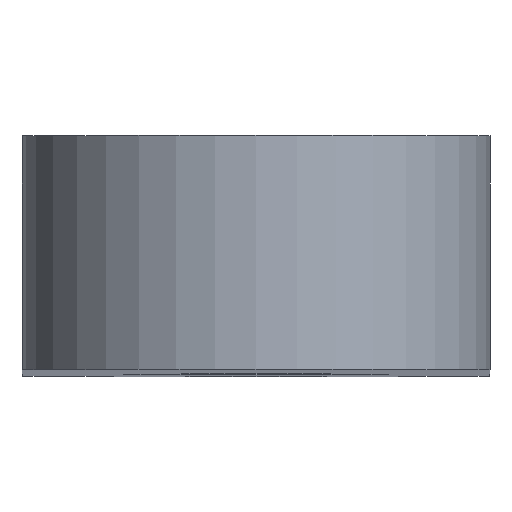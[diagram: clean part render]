
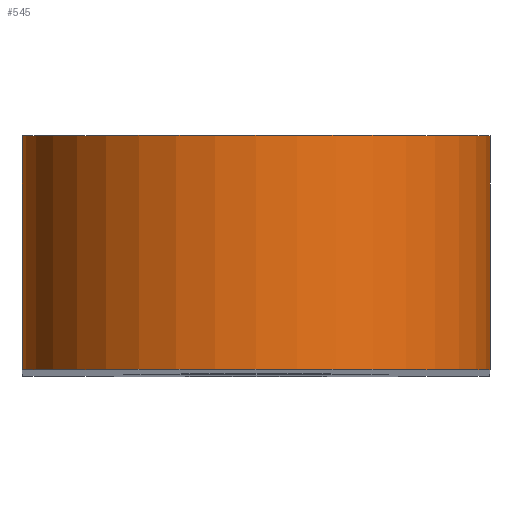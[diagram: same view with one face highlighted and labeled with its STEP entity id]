
A CAD part, top view. The second image highlights one B-rep face of the part: STEP entity #545.
In plain terms, the highlighted cylindrical face has radius 5 mm (diameter 10 mm), a partial arc.
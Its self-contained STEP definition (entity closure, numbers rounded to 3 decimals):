
#19=CYLINDRICAL_SURFACE('',#599,5.);
#66=LINE('',#888,#118);
#67=LINE('',#891,#119);
#118=VECTOR('',#725,10.);
#119=VECTOR('',#728,10.);
#163=FACE_OUTER_BOUND('',#197,.T.);
#197=EDGE_LOOP('',(#441,#442,#443,#444));
#230=CIRCLE('',#600,5.);
#231=CIRCLE('',#601,5.);
#276=VERTEX_POINT('',#884);
#277=VERTEX_POINT('',#885);
#278=VERTEX_POINT('',#887);
#279=VERTEX_POINT('',#889);
#339=EDGE_CURVE('',#276,#277,#230,.T.);
#340=EDGE_CURVE('',#278,#276,#66,.T.);
#341=EDGE_CURVE('',#279,#278,#231,.T.);
#342=EDGE_CURVE('',#279,#277,#67,.T.);
#441=ORIENTED_EDGE('',*,*,#339,.F.);
#442=ORIENTED_EDGE('',*,*,#340,.F.);
#443=ORIENTED_EDGE('',*,*,#341,.F.);
#444=ORIENTED_EDGE('',*,*,#342,.T.);
#545=ADVANCED_FACE('',(#163),#19,.T.);
#599=AXIS2_PLACEMENT_3D('',#883,#721,#722);
#600=AXIS2_PLACEMENT_3D('',#886,#723,#724);
#601=AXIS2_PLACEMENT_3D('',#890,#726,#727);
#721=DIRECTION('center_axis',(0.,-1.,0.));
#722=DIRECTION('ref_axis',(-1.,0.,0.));
#723=DIRECTION('center_axis',(0.,1.,0.));
#724=DIRECTION('ref_axis',(-1.,0.,0.));
#725=DIRECTION('',(0.,1.,0.));
#726=DIRECTION('center_axis',(0.,-1.,0.));
#727=DIRECTION('ref_axis',(-1.,0.,0.));
#728=DIRECTION('',(0.,1.,0.));
#883=CARTESIAN_POINT('Origin',(-20.901,14.857,200.75));
#884=CARTESIAN_POINT('',(-25.901,14.857,200.75));
#885=CARTESIAN_POINT('',(-15.901,14.857,200.75));
#886=CARTESIAN_POINT('Origin',(-20.901,14.857,200.75));
#887=CARTESIAN_POINT('',(-25.901,9.857,200.75));
#888=CARTESIAN_POINT('',(-25.901,14.857,200.75));
#889=CARTESIAN_POINT('',(-15.901,9.857,200.75));
#890=CARTESIAN_POINT('Origin',(-20.901,9.857,200.75));
#891=CARTESIAN_POINT('',(-15.901,14.857,200.75));
